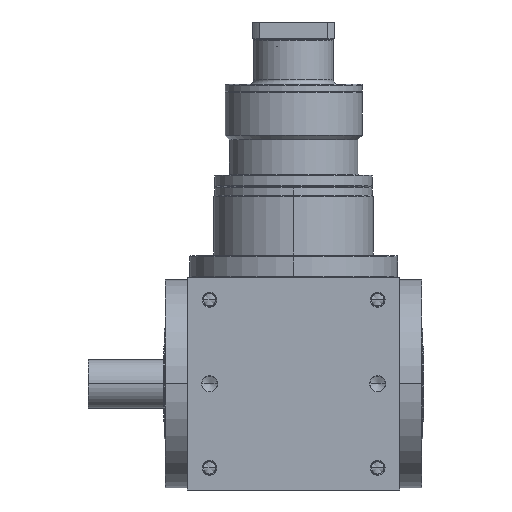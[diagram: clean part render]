
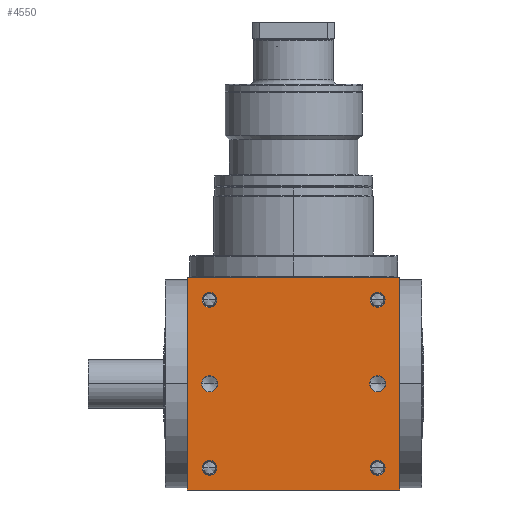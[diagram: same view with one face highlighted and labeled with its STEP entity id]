
A CAD part, front view. The second image highlights one B-rep face of the part: STEP entity #4550.
In plain terms, the highlighted planar face has unit normal (0, -1, 0).
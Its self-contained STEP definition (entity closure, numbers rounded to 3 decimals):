
#5=DIRECTION('',(1.,0.,0.));
#6=VECTOR('',#5,240.);
#7=CARTESIAN_POINT('',(-120.,-120.,-120.));
#8=LINE('',#7,#6);
#155=DIRECTION('',(0.,0.,1.));
#156=VECTOR('',#155,240.);
#157=CARTESIAN_POINT('',(120.,-120.,-120.));
#158=LINE('',#157,#156);
#209=DIRECTION('',(0.,0.,1.));
#210=VECTOR('',#209,240.);
#211=CARTESIAN_POINT('',(-120.,-120.,-120.));
#212=LINE('',#211,#210);
#213=CARTESIAN_POINT('',(95.,-120.,95.));
#214=DIRECTION('',(0.,1.,0.));
#215=DIRECTION('',(-1.,0.,0.));
#216=AXIS2_PLACEMENT_3D('',#213,#214,#215);
#218=CARTESIAN_POINT('',(95.,-120.,95.));
#219=DIRECTION('',(0.,1.,0.));
#220=DIRECTION('',(1.,0.,0.));
#221=AXIS2_PLACEMENT_3D('',#218,#219,#220);
#223=CARTESIAN_POINT('',(-95.,-120.,95.));
#224=DIRECTION('',(0.,1.,0.));
#225=DIRECTION('',(-1.,0.,0.));
#226=AXIS2_PLACEMENT_3D('',#223,#224,#225);
#228=CARTESIAN_POINT('',(-95.,-120.,95.));
#229=DIRECTION('',(0.,1.,0.));
#230=DIRECTION('',(1.,0.,0.));
#231=AXIS2_PLACEMENT_3D('',#228,#229,#230);
#233=CARTESIAN_POINT('',(95.,-120.,-95.));
#234=DIRECTION('',(0.,1.,0.));
#235=DIRECTION('',(-1.,0.,0.));
#236=AXIS2_PLACEMENT_3D('',#233,#234,#235);
#238=CARTESIAN_POINT('',(95.,-120.,-95.));
#239=DIRECTION('',(0.,1.,0.));
#240=DIRECTION('',(1.,0.,0.));
#241=AXIS2_PLACEMENT_3D('',#238,#239,#240);
#243=CARTESIAN_POINT('',(-95.,-120.,-95.));
#244=DIRECTION('',(0.,1.,0.));
#245=DIRECTION('',(-1.,0.,0.));
#246=AXIS2_PLACEMENT_3D('',#243,#244,#245);
#248=CARTESIAN_POINT('',(-95.,-120.,-95.));
#249=DIRECTION('',(0.,1.,0.));
#250=DIRECTION('',(1.,0.,0.));
#251=AXIS2_PLACEMENT_3D('',#248,#249,#250);
#253=CARTESIAN_POINT('',(-95.,-120.,0.));
#254=DIRECTION('',(0.,1.,0.));
#255=DIRECTION('',(1.,0.,0.));
#256=AXIS2_PLACEMENT_3D('',#253,#254,#255);
#258=CARTESIAN_POINT('',(-95.,-120.,0.));
#259=DIRECTION('',(0.,1.,0.));
#260=DIRECTION('',(-1.,0.,0.));
#261=AXIS2_PLACEMENT_3D('',#258,#259,#260);
#263=CARTESIAN_POINT('',(95.,-120.,0.));
#264=DIRECTION('',(0.,1.,0.));
#265=DIRECTION('',(1.,0.,0.));
#266=AXIS2_PLACEMENT_3D('',#263,#264,#265);
#268=CARTESIAN_POINT('',(95.,-120.,0.));
#269=DIRECTION('',(0.,1.,0.));
#270=DIRECTION('',(-1.,0.,0.));
#271=AXIS2_PLACEMENT_3D('',#268,#269,#270);
#285=DIRECTION('',(1.,0.,0.));
#286=VECTOR('',#285,240.);
#287=CARTESIAN_POINT('',(-120.,-120.,120.));
#288=LINE('',#287,#286);
#3651=CARTESIAN_POINT('',(-120.,-120.,-120.));
#3653=VERTEX_POINT('',#3651);
#3654=CARTESIAN_POINT('',(120.,-120.,-120.));
#3655=VERTEX_POINT('',#3654);
#3659=CARTESIAN_POINT('',(-120.,-120.,120.));
#3661=VERTEX_POINT('',#3659);
#3662=CARTESIAN_POINT('',(120.,-120.,120.));
#3663=VERTEX_POINT('',#3662);
#3830=CARTESIAN_POINT('',(86.6,-120.,95.));
#3831=CARTESIAN_POINT('',(103.4,-120.,95.));
#3832=VERTEX_POINT('',#3830);
#3833=VERTEX_POINT('',#3831);
#3838=CARTESIAN_POINT('',(-103.4,-120.,95.));
#3839=CARTESIAN_POINT('',(-86.6,-120.,95.));
#3840=VERTEX_POINT('',#3838);
#3841=VERTEX_POINT('',#3839);
#3846=CARTESIAN_POINT('',(86.6,-120.,-95.));
#3847=CARTESIAN_POINT('',(103.4,-120.,-95.));
#3848=VERTEX_POINT('',#3846);
#3849=VERTEX_POINT('',#3847);
#3854=CARTESIAN_POINT('',(-103.4,-120.,-95.));
#3855=CARTESIAN_POINT('',(-86.6,-120.,-95.));
#3856=VERTEX_POINT('',#3854);
#3857=VERTEX_POINT('',#3855);
#4196=CARTESIAN_POINT('',(-85.95,-120.,
0.));
#4197=CARTESIAN_POINT('',(-104.05,-120.,
0.));
#4198=VERTEX_POINT('',#4196);
#4199=VERTEX_POINT('',#4197);
#4204=CARTESIAN_POINT('',(104.05,-120.,0.));
#4205=CARTESIAN_POINT('',(85.95,-120.,0.));
#4206=VERTEX_POINT('',#4204);
#4207=VERTEX_POINT('',#4205);
#4502=CARTESIAN_POINT('',(-120.,-120.,-120.));
#4503=DIRECTION('',(0.,-1.,0.));
#4504=DIRECTION('',(1.,0.,0.));
#4505=AXIS2_PLACEMENT_3D('',#4502,#4503,#4504);
#4506=PLANE('',#4505);
#4507=ORIENTED_EDGE('',*,*,#4342,.F.);
#4508=ORIENTED_EDGE('',*,*,#4385,.T.);
#4510=ORIENTED_EDGE('',*,*,#4509,.T.);
#4511=ORIENTED_EDGE('',*,*,#4464,.F.);
#4512=EDGE_LOOP('',(#4507,#4508,#4510,#4511));
#4513=FACE_OUTER_BOUND('',#4512,.F.);
#4515=ORIENTED_EDGE('',*,*,#4514,.F.);
#4517=ORIENTED_EDGE('',*,*,#4516,.F.);
#4518=EDGE_LOOP('',(#4515,#4517));
#4519=FACE_BOUND('',#4518,.F.);
#4521=ORIENTED_EDGE('',*,*,#4520,.F.);
#4523=ORIENTED_EDGE('',*,*,#4522,.F.);
#4524=EDGE_LOOP('',(#4521,#4523));
#4525=FACE_BOUND('',#4524,.F.);
#4527=ORIENTED_EDGE('',*,*,#4526,.F.);
#4529=ORIENTED_EDGE('',*,*,#4528,.F.);
#4530=EDGE_LOOP('',(#4527,#4529));
#4531=FACE_BOUND('',#4530,.F.);
#4533=ORIENTED_EDGE('',*,*,#4532,.F.);
#4535=ORIENTED_EDGE('',*,*,#4534,.F.);
#4536=EDGE_LOOP('',(#4533,#4535));
#4537=FACE_BOUND('',#4536,.F.);
#4539=ORIENTED_EDGE('',*,*,#4538,.F.);
#4541=ORIENTED_EDGE('',*,*,#4540,.F.);
#4542=EDGE_LOOP('',(#4539,#4541));
#4543=FACE_BOUND('',#4542,.F.);
#4545=ORIENTED_EDGE('',*,*,#4544,.F.);
#4547=ORIENTED_EDGE('',*,*,#4546,.F.);
#4548=EDGE_LOOP('',(#4545,#4547));
#4549=FACE_BOUND('',#4548,.F.);
#4550=ADVANCED_FACE('',(#4513,#4519,#4525,#4531,#4537,#4543,#4549),#4506,.T.);
#217=CIRCLE('',#216,8.4);
#222=CIRCLE('',#221,8.4);
#227=CIRCLE('',#226,8.4);
#232=CIRCLE('',#231,8.4);
#237=CIRCLE('',#236,8.4);
#242=CIRCLE('',#241,8.4);
#247=CIRCLE('',#246,8.4);
#252=CIRCLE('',#251,8.4);
#257=CIRCLE('',#256,9.05);
#262=CIRCLE('',#261,9.05);
#267=CIRCLE('',#266,9.05);
#272=CIRCLE('',#271,9.05);
#4342=EDGE_CURVE('',#3653,#3655,#8,.T.);
#4385=EDGE_CURVE('',#3653,#3661,#212,.T.);
#4464=EDGE_CURVE('',#3655,#3663,#158,.T.);
#4509=EDGE_CURVE('',#3661,#3663,#288,.T.);
#4514=EDGE_CURVE('',#3832,#3833,#217,.T.);
#4516=EDGE_CURVE('',#3833,#3832,#222,.T.);
#4520=EDGE_CURVE('',#3840,#3841,#227,.T.);
#4522=EDGE_CURVE('',#3841,#3840,#232,.T.);
#4526=EDGE_CURVE('',#3848,#3849,#237,.T.);
#4528=EDGE_CURVE('',#3849,#3848,#242,.T.);
#4532=EDGE_CURVE('',#3856,#3857,#247,.T.);
#4534=EDGE_CURVE('',#3857,#3856,#252,.T.);
#4538=EDGE_CURVE('',#4198,#4199,#257,.T.);
#4540=EDGE_CURVE('',#4199,#4198,#262,.T.);
#4544=EDGE_CURVE('',#4206,#4207,#267,.T.);
#4546=EDGE_CURVE('',#4207,#4206,#272,.T.);
